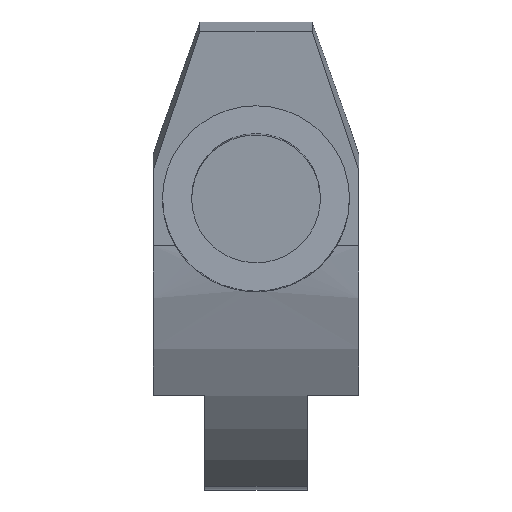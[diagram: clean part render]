
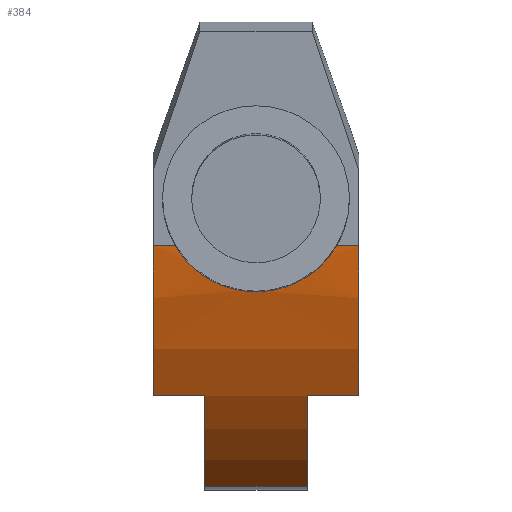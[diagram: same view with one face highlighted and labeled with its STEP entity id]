
A CAD part, left-side view. The second image highlights one B-rep face of the part: STEP entity #384.
In plain terms, the highlighted cylindrical face has radius 15 mm (diameter 30 mm), a partial arc.
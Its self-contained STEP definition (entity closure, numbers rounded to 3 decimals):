
#18=B_SPLINE_CURVE_WITH_KNOTS('',3,(#611,#612,#613,#614,#615,#616,#617,
#618,#619,#620,#621,#622,#623,#624,#625),.UNSPECIFIED.,.F.,.F.,(4,2,2,3,
2,2,4),(-0.402,-0.302,-0.151,0.,0.151,
0.303,0.402),.UNSPECIFIED.);
#21=CIRCLE('',#425,15.);
#22=CIRCLE('',#426,15.);
#23=CIRCLE('',#427,15.);
#24=CIRCLE('',#428,15.);
#33=CYLINDRICAL_SURFACE('',#424,15.);
#54=LINE('',#598,#92);
#55=LINE('',#604,#93);
#59=LINE('',#634,#97);
#60=LINE('',#638,#98);
#61=LINE('',#642,#99);
#92=VECTOR('',#480,15.);
#93=VECTOR('',#485,15.);
#97=VECTOR('',#503,10.);
#98=VECTOR('',#506,10.);
#99=VECTOR('',#509,10.);
#123=FACE_OUTER_BOUND('',#145,.T.);
#145=EDGE_LOOP('',(#297,#298,#299,#300,#301,#302,#303,#304,#305,#306));
#174=VERTEX_POINT('',#595);
#175=VERTEX_POINT('',#597);
#177=VERTEX_POINT('',#601);
#178=VERTEX_POINT('',#603);
#181=VERTEX_POINT('',#631);
#182=VERTEX_POINT('',#633);
#183=VERTEX_POINT('',#635);
#184=VERTEX_POINT('',#637);
#185=VERTEX_POINT('',#639);
#186=VERTEX_POINT('',#641);
#215=EDGE_CURVE('',#174,#175,#54,.T.);
#218=EDGE_CURVE('',#177,#178,#55,.T.);
#222=EDGE_CURVE('',#177,#175,#18,.T.);
#225=EDGE_CURVE('',#181,#174,#21,.T.);
#226=EDGE_CURVE('',#181,#182,#59,.T.);
#227=EDGE_CURVE('',#182,#183,#22,.F.);
#228=EDGE_CURVE('',#184,#183,#60,.T.);
#229=EDGE_CURVE('',#184,#185,#23,.T.);
#230=EDGE_CURVE('',#185,#186,#61,.T.);
#231=EDGE_CURVE('',#178,#186,#24,.F.);
#297=ORIENTED_EDGE('',*,*,#222,.T.);
#298=ORIENTED_EDGE('',*,*,#215,.F.);
#299=ORIENTED_EDGE('',*,*,#225,.F.);
#300=ORIENTED_EDGE('',*,*,#226,.T.);
#301=ORIENTED_EDGE('',*,*,#227,.T.);
#302=ORIENTED_EDGE('',*,*,#228,.F.);
#303=ORIENTED_EDGE('',*,*,#229,.T.);
#304=ORIENTED_EDGE('',*,*,#230,.T.);
#305=ORIENTED_EDGE('',*,*,#231,.F.);
#306=ORIENTED_EDGE('',*,*,#218,.F.);
#384=ADVANCED_FACE('',(#123),#33,.T.);
#424=AXIS2_PLACEMENT_3D('',#630,#499,#500);
#425=AXIS2_PLACEMENT_3D('',#632,#501,#502);
#426=AXIS2_PLACEMENT_3D('',#636,#504,#505);
#427=AXIS2_PLACEMENT_3D('',#640,#507,#508);
#428=AXIS2_PLACEMENT_3D('',#643,#510,#511);
#480=DIRECTION('',(0.,-1.,0.));
#485=DIRECTION('',(0.,-1.,0.));
#499=DIRECTION('center_axis',(0.,1.,0.));
#500=DIRECTION('ref_axis',(-0.647,0.,-0.763));
#501=DIRECTION('center_axis',(0.,1.,0.));
#502=DIRECTION('ref_axis',(-0.647,0.,-0.763));
#503=DIRECTION('',(0.,-1.,0.));
#504=DIRECTION('center_axis',(0.,1.,0.));
#505=DIRECTION('ref_axis',(-0.647,0.,-0.763));
#506=DIRECTION('',(0.,1.,0.));
#507=DIRECTION('center_axis',(0.,1.,0.));
#508=DIRECTION('ref_axis',(-0.647,0.,-0.763));
#509=DIRECTION('',(0.,-1.,0.));
#510=DIRECTION('center_axis',(0.,1.,0.));
#511=DIRECTION('ref_axis',(-0.647,0.,-0.763));
#595=CARTESIAN_POINT('',(-7.035,19.4,-15.498));
#597=CARTESIAN_POINT('',(-7.035,18.456,-15.498));
#598=CARTESIAN_POINT('',(-7.035,11.,-15.498));
#601=CARTESIAN_POINT('',(-7.035,11.544,-15.498));
#603=CARTESIAN_POINT('',(-7.035,10.6,-15.498));
#604=CARTESIAN_POINT('',(-7.035,11.,-15.498));
#611=CARTESIAN_POINT('Ctrl Pts',(-7.035,11.544,-15.498));
#612=CARTESIAN_POINT('Ctrl Pts',(-6.998,11.721,-15.8));
#613=CARTESIAN_POINT('Ctrl Pts',(-6.955,11.937,-16.074));
#614=CARTESIAN_POINT('Ctrl Pts',(-6.85,12.526,-16.659));
#615=CARTESIAN_POINT('Ctrl Pts',(-6.782,12.975,-16.963));
#616=CARTESIAN_POINT('Ctrl Pts',(-6.686,13.96,-17.367));
#617=CARTESIAN_POINT('Ctrl Pts',(-6.658,14.496,-17.467));
#618=CARTESIAN_POINT('Ctrl Pts',(-6.658,15.,-17.467));
#619=CARTESIAN_POINT('Ctrl Pts',(-6.658,15.504,-17.467));
#620=CARTESIAN_POINT('Ctrl Pts',(-6.686,16.041,-17.367));
#621=CARTESIAN_POINT('Ctrl Pts',(-6.783,17.028,-16.961));
#622=CARTESIAN_POINT('Ctrl Pts',(-6.851,17.477,-16.656));
#623=CARTESIAN_POINT('Ctrl Pts',(-6.955,18.065,-16.071));
#624=CARTESIAN_POINT('Ctrl Pts',(-6.998,18.28,-15.799));
#625=CARTESIAN_POINT('Ctrl Pts',(-7.035,18.456,-15.498));
#630=CARTESIAN_POINT('Origin',(7.853,11.,-13.67));
#631=CARTESIAN_POINT('',(-4.682,19.4,-21.908));
#632=CARTESIAN_POINT('Origin',(7.853,19.4,-13.67));
#633=CARTESIAN_POINT('',(-4.682,17.2,-21.908));
#634=CARTESIAN_POINT('',(-4.682,11.,-21.908));
#635=CARTESIAN_POINT('',(-0.976,17.2,-25.796));
#636=CARTESIAN_POINT('Origin',(7.853,17.2,-13.67));
#637=CARTESIAN_POINT('',(-0.976,12.8,-25.796));
#638=CARTESIAN_POINT('',(-0.976,11.,-25.796));
#639=CARTESIAN_POINT('',(-4.682,12.8,-21.908));
#640=CARTESIAN_POINT('Origin',(7.853,12.8,-13.67));
#641=CARTESIAN_POINT('',(-4.682,10.6,-21.908));
#642=CARTESIAN_POINT('',(-4.682,11.,-21.908));
#643=CARTESIAN_POINT('Origin',(7.853,10.6,-13.67));
